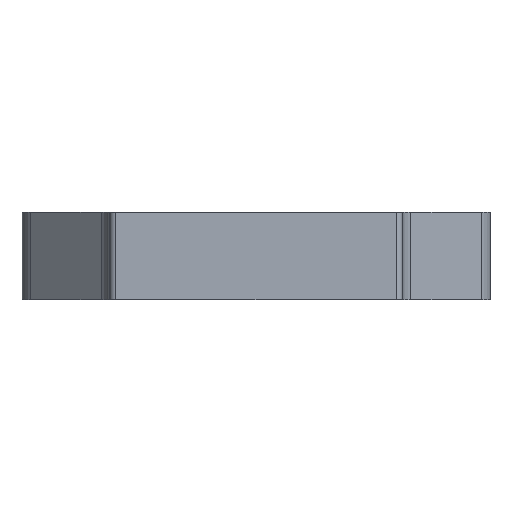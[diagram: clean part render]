
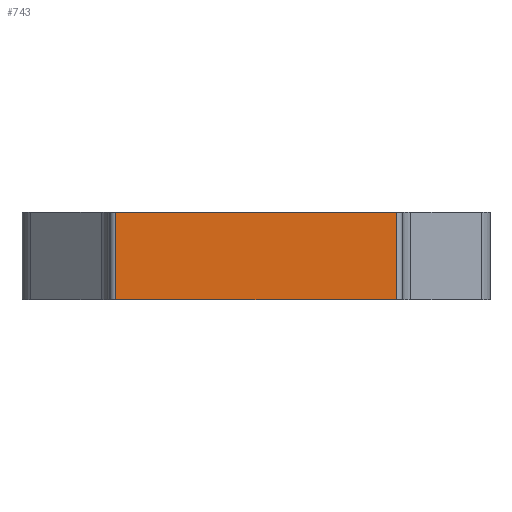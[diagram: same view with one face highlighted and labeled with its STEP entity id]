
A CAD part, front view. The second image highlights one B-rep face of the part: STEP entity #743.
In plain terms, the highlighted planar face has unit normal (0, -1, 0).
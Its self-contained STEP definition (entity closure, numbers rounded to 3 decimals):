
#50 = VERTEX_POINT ( 'NONE', #689 ) ;
#55 = DIRECTION ( 'NONE',  ( 1., 0., 0. ) ) ;
#59 = ORIENTED_EDGE ( 'NONE', *, *, #552, .T. ) ;
#93 = EDGE_CURVE ( 'NONE', #50, #996, #890, .T. ) ;
#113 = DIRECTION ( 'NONE',  ( 0., 0., 1. ) ) ;
#194 = EDGE_CURVE ( 'NONE', #755, #849, #1016, .T. ) ;
#228 = CARTESIAN_POINT ( 'NONE',  ( 25., -14., 7.5 ) ) ;
#229 = PLANE ( 'NONE',  #788 ) ;
#250 = ORIENTED_EDGE ( 'NONE', *, *, #387, .T. ) ;
#274 = ORIENTED_EDGE ( 'NONE', *, *, #93, .T. ) ;
#291 = DIRECTION ( 'NONE',  ( 0., 0., -1. ) ) ;
#334 = EDGE_LOOP ( 'NONE', ( #274, #250, #531, #59 ) ) ;
#360 = CARTESIAN_POINT ( 'NONE',  ( -24., -14., 7.5 ) ) ;
#387 = EDGE_CURVE ( 'NONE', #996, #849, #919, .T. ) ;
#415 = VECTOR ( 'NONE', #113, 1000. ) ;
#429 = CARTESIAN_POINT ( 'NONE',  ( 24., -14., 7.5 ) ) ;
#478 = CARTESIAN_POINT ( 'NONE',  ( 24., -14., 7.5 ) ) ;
#500 = CARTESIAN_POINT ( 'NONE',  ( 24., -14., -7.5 ) ) ;
#531 = ORIENTED_EDGE ( 'NONE', *, *, #194, .F. ) ;
#552 = EDGE_CURVE ( 'NONE', #755, #50, #640, .T. ) ;
#614 = FACE_OUTER_BOUND ( 'NONE', #334, .T. ) ;
#640 = LINE ( 'NONE', #360, #876 ) ;
#655 = VECTOR ( 'NONE', #55, 1000. ) ;
#689 = CARTESIAN_POINT ( 'NONE',  ( -24., -14., -7.5 ) ) ;
#697 = CARTESIAN_POINT ( 'NONE',  ( 25., -14., -7.5 ) ) ;
#743 = ADVANCED_FACE ( 'NONE', ( #614 ), #229, .F. ) ;
#755 = VERTEX_POINT ( 'NONE', #1008 ) ;
#768 = DIRECTION ( 'NONE',  ( 0., 0., 1. ) ) ;
#771 = CARTESIAN_POINT ( 'NONE',  ( 25., -14., 7.5 ) ) ;
#788 = AXIS2_PLACEMENT_3D ( 'NONE', #771, #938, #768 ) ;
#816 = VECTOR ( 'NONE', #943, 1000. ) ;
#849 = VERTEX_POINT ( 'NONE', #478 ) ;
#876 = VECTOR ( 'NONE', #291, 1000. ) ;
#890 = LINE ( 'NONE', #697, #655 ) ;
#919 = LINE ( 'NONE', #429, #415 ) ;
#938 = DIRECTION ( 'NONE',  ( 0., 1., 0. ) ) ;
#943 = DIRECTION ( 'NONE',  ( 1., 0., 0. ) ) ;
#996 = VERTEX_POINT ( 'NONE', #500 ) ;
#1008 = CARTESIAN_POINT ( 'NONE',  ( -24., -14., 7.5 ) ) ;
#1016 = LINE ( 'NONE', #228, #816 ) ;
